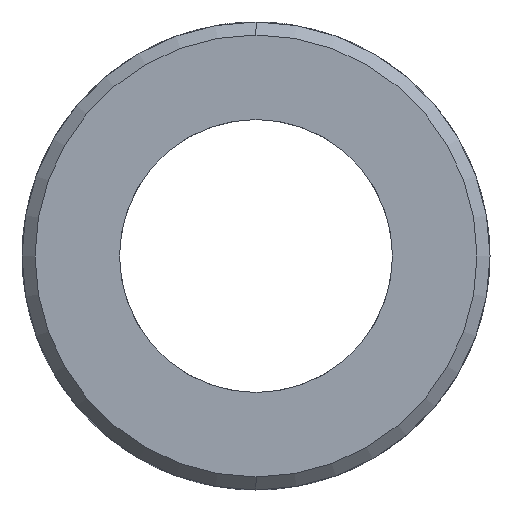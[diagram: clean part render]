
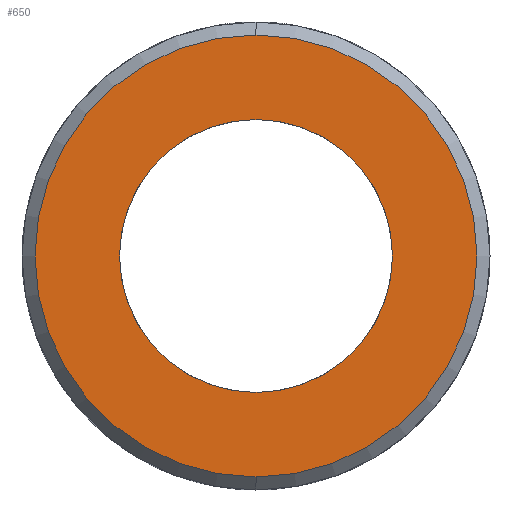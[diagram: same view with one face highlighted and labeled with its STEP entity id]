
A CAD part, left-side view. The second image highlights one B-rep face of the part: STEP entity #650.
In plain terms, the highlighted planar face has unit normal (-1, 0, 0).
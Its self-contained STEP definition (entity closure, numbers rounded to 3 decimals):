
#5 = AXIS2_PLACEMENT_3D ( 'NONE', #303, #479, #1122 ) ;
#30 = PLANE ( 'NONE',  #5 ) ;
#52 = DIRECTION ( 'NONE',  ( -1., 0., 0. ) ) ;
#68 = CARTESIAN_POINT ( 'NONE',  ( -34., 0., 0. ) ) ;
#83 = EDGE_CURVE ( 'NONE', #971, #1156, #826, .T. ) ;
#88 = CARTESIAN_POINT ( 'NONE',  ( -34., 0., 10.5 ) ) ;
#110 = AXIS2_PLACEMENT_3D ( 'NONE', #675, #137, #769 ) ;
#137 = DIRECTION ( 'NONE',  ( -1., 0., 0. ) ) ;
#156 = DIRECTION ( 'NONE',  ( 0., 0., 1. ) ) ;
#194 = EDGE_LOOP ( 'NONE', ( #1163, #243 ) ) ;
#212 = VERTEX_POINT ( 'NONE', #88 ) ;
#214 = ORIENTED_EDGE ( 'NONE', *, *, #217, .F. ) ;
#217 = EDGE_CURVE ( 'NONE', #212, #296, #777, .T. ) ;
#223 = FACE_BOUND ( 'NONE', #284, .T. ) ;
#243 = ORIENTED_EDGE ( 'NONE', *, *, #873, .T. ) ;
#284 = EDGE_LOOP ( 'NONE', ( #214, #1003 ) ) ;
#288 = FACE_OUTER_BOUND ( 'NONE', #194, .T. ) ;
#296 = VERTEX_POINT ( 'NONE', #903 ) ;
#301 = AXIS2_PLACEMENT_3D ( 'NONE', #598, #52, #683 ) ;
#303 = CARTESIAN_POINT ( 'NONE',  ( -34., 10.5, 0. ) ) ;
#314 = EDGE_CURVE ( 'NONE', #296, #212, #948, .T. ) ;
#349 = DIRECTION ( 'NONE',  ( -1., 0., 0. ) ) ;
#405 = CARTESIAN_POINT ( 'NONE',  ( -34., 0., -17. ) ) ;
#479 = DIRECTION ( 'NONE',  ( 1., 0., 0. ) ) ;
#598 = CARTESIAN_POINT ( 'NONE',  ( -34., 0., 0. ) ) ;
#650 = ADVANCED_FACE ( 'NONE', ( #288, #223 ), #30, .F. ) ;
#664 = AXIS2_PLACEMENT_3D ( 'NONE', #885, #349, #978 ) ;
#675 = CARTESIAN_POINT ( 'NONE',  ( -34., 0., 0. ) ) ;
#683 = DIRECTION ( 'NONE',  ( 0., 0., -1. ) ) ;
#695 = DIRECTION ( 'NONE',  ( -1., 0., 0. ) ) ;
#769 = DIRECTION ( 'NONE',  ( 0., 0., -1. ) ) ;
#777 = CIRCLE ( 'NONE', #664, 10.5 ) ;
#826 = CIRCLE ( 'NONE', #301, 17. ) ;
#873 = EDGE_CURVE ( 'NONE', #1156, #971, #1017, .T. ) ;
#885 = CARTESIAN_POINT ( 'NONE',  ( -34., 0., 0. ) ) ;
#903 = CARTESIAN_POINT ( 'NONE',  ( -34., 0., -10.5 ) ) ;
#948 = CIRCLE ( 'NONE', #962, 10.5 ) ;
#962 = AXIS2_PLACEMENT_3D ( 'NONE', #68, #695, #156 ) ;
#971 = VERTEX_POINT ( 'NONE', #405 ) ;
#978 = DIRECTION ( 'NONE',  ( 0., 0., 1. ) ) ;
#1003 = ORIENTED_EDGE ( 'NONE', *, *, #314, .F. ) ;
#1017 = CIRCLE ( 'NONE', #110, 17. ) ;
#1044 = CARTESIAN_POINT ( 'NONE',  ( -34., 0., 17. ) ) ;
#1122 = DIRECTION ( 'NONE',  ( 0., 0., -1. ) ) ;
#1156 = VERTEX_POINT ( 'NONE', #1044 ) ;
#1163 = ORIENTED_EDGE ( 'NONE', *, *, #83, .T. ) ;
